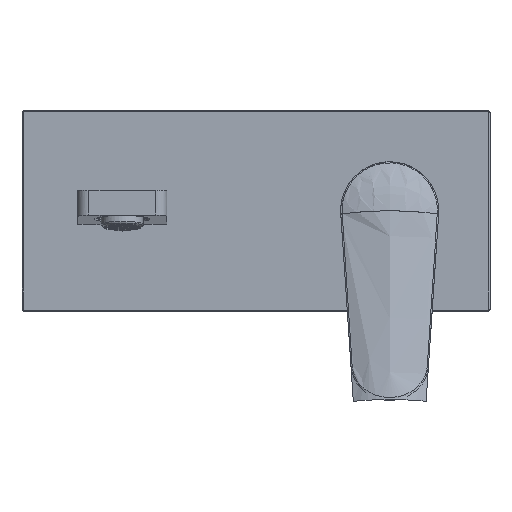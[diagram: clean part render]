
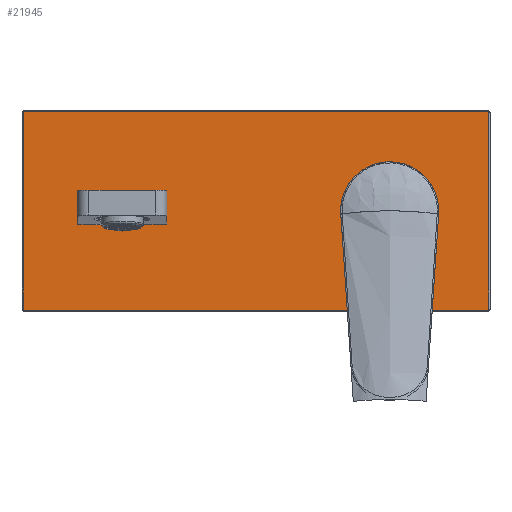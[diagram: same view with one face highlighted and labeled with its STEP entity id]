
A CAD part, top view. The second image highlights one B-rep face of the part: STEP entity #21945.
In plain terms, the highlighted planar face has unit normal (0, 0, 1).
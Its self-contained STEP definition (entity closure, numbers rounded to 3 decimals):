
#10870=CARTESIAN_POINT('',(104.,-44.,7.));
#10871=DIRECTION('',(0.,0.,1.));
#10872=DIRECTION('',(0.,-1.,0.));
#10873=AXIS2_PLACEMENT_3D('',#10870,#10871,#10872);
#10875=DIRECTION('',(1.,0.,0.));
#10876=VECTOR('',#10875,208.);
#10877=CARTESIAN_POINT('',(-104.,-44.5,7.));
#10878=LINE('',#10877,#10876);
#10879=CARTESIAN_POINT('',(-104.,-44.,7.));
#10880=DIRECTION('',(0.,0.,1.));
#10881=DIRECTION('',(-1.,0.,0.));
#10882=AXIS2_PLACEMENT_3D('',#10879,#10880,#10881);
#10884=DIRECTION('',(0.,-1.,0.));
#10885=VECTOR('',#10884,88.);
#10886=CARTESIAN_POINT('',(-104.5,44.,7.));
#10887=LINE('',#10886,#10885);
#10888=CARTESIAN_POINT('',(-104.,44.,7.));
#10889=DIRECTION('',(0.,0.,1.));
#10890=DIRECTION('',(0.,1.,0.));
#10891=AXIS2_PLACEMENT_3D('',#10888,#10889,#10890);
#10893=DIRECTION('',(-1.,0.,0.));
#10894=VECTOR('',#10893,208.);
#10895=CARTESIAN_POINT('',(104.,44.5,7.));
#10896=LINE('',#10895,#10894);
#10897=CARTESIAN_POINT('',(104.,44.,7.));
#10898=DIRECTION('',(0.,0.,1.));
#10899=DIRECTION('',(1.,0.,0.));
#10900=AXIS2_PLACEMENT_3D('',#10897,#10898,#10899);
#10902=DIRECTION('',(0.,1.,0.));
#10903=VECTOR('',#10902,88.);
#10904=CARTESIAN_POINT('',(104.5,-44.,7.));
#10905=LINE('',#10904,#10903);
#10906=CARTESIAN_POINT('',(60.,0.,7.));
#10907=DIRECTION('',(0.,0.,-1.));
#10908=DIRECTION('',(-1.,0.,0.));
#10909=AXIS2_PLACEMENT_3D('',#10906,#10907,#10908);
#10911=CARTESIAN_POINT('',(60.,0.,7.));
#10912=DIRECTION('',(0.,0.,-1.));
#10913=DIRECTION('',(1.,0.,0.));
#10914=AXIS2_PLACEMENT_3D('',#10911,#10912,#10913);
#10916=CARTESIAN_POINT('',(-60.,0.,7.));
#10917=DIRECTION('',(0.,0.,-1.));
#10918=DIRECTION('',(-1.,0.,0.));
#10919=AXIS2_PLACEMENT_3D('',#10916,#10917,#10918);
#10921=CARTESIAN_POINT('',(-60.,0.,7.));
#10922=DIRECTION('',(0.,0.,-1.));
#10923=DIRECTION('',(1.,0.,0.));
#10924=AXIS2_PLACEMENT_3D('',#10921,#10922,#10923);
#19225=CARTESIAN_POINT('',(104.,-44.5,7.));
#19226=CARTESIAN_POINT('',(104.5,-44.,7.));
#19227=VERTEX_POINT('',#19225);
#19228=VERTEX_POINT('',#19226);
#19233=CARTESIAN_POINT('',(104.5,44.,7.));
#19234=VERTEX_POINT('',#19233);
#19237=CARTESIAN_POINT('',(104.,44.5,7.));
#19238=VERTEX_POINT('',#19237);
#19241=CARTESIAN_POINT('',(-104.,44.5,7.));
#19242=VERTEX_POINT('',#19241);
#19245=CARTESIAN_POINT('',(-104.5,44.,7.));
#19246=VERTEX_POINT('',#19245);
#19249=CARTESIAN_POINT('',(-104.5,-44.,7.));
#19250=VERTEX_POINT('',#19249);
#19253=CARTESIAN_POINT('',(-104.,-44.5,7.));
#19254=VERTEX_POINT('',#19253);
#19301=CARTESIAN_POINT('',(39.05,0.,7.));
#19302=CARTESIAN_POINT('',(80.95,0.,7.));
#19303=VERTEX_POINT('',#19301);
#19304=VERTEX_POINT('',#19302);
#19309=CARTESIAN_POINT('',(-67.2,0.,7.));
#19310=CARTESIAN_POINT('',(-52.8,0.,7.));
#19311=VERTEX_POINT('',#19309);
#19312=VERTEX_POINT('',#19310);
#21911=CARTESIAN_POINT('',(0.,0.,7.));
#21912=DIRECTION('',(0.,0.,1.));
#21913=DIRECTION('',(1.,0.,0.));
#21914=AXIS2_PLACEMENT_3D('',#21911,#21912,#21913);
#21915=PLANE('',#21914);
#21917=ORIENTED_EDGE('',*,*,#21916,.F.);
#21918=ORIENTED_EDGE('',*,*,#21901,.F.);
#21920=ORIENTED_EDGE('',*,*,#21919,.F.);
#21922=ORIENTED_EDGE('',*,*,#21921,.F.);
#21924=ORIENTED_EDGE('',*,*,#21923,.F.);
#21926=ORIENTED_EDGE('',*,*,#21925,.F.);
#21928=ORIENTED_EDGE('',*,*,#21927,.F.);
#21930=ORIENTED_EDGE('',*,*,#21929,.F.);
#21931=EDGE_LOOP('',(#21917,#21918,#21920,#21922,#21924,#21926,#21928,#21930));
#21932=FACE_OUTER_BOUND('',#21931,.F.);
#21934=ORIENTED_EDGE('',*,*,#21933,.F.);
#21936=ORIENTED_EDGE('',*,*,#21935,.F.);
#21937=EDGE_LOOP('',(#21934,#21936));
#21938=FACE_BOUND('',#21937,.F.);
#21940=ORIENTED_EDGE('',*,*,#21939,.F.);
#21942=ORIENTED_EDGE('',*,*,#21941,.F.);
#21943=EDGE_LOOP('',(#21940,#21942));
#21944=FACE_BOUND('',#21943,.F.);
#21945=ADVANCED_FACE('',(#21932,#21938,#21944),#21915,.T.);
#10874=CIRCLE('',#10873,0.5);
#10883=CIRCLE('',#10882,0.5);
#10892=CIRCLE('',#10891,0.5);
#10901=CIRCLE('',#10900,0.5);
#10910=CIRCLE('',#10909,20.95);
#10915=CIRCLE('',#10914,20.95);
#10920=CIRCLE('',#10919,7.2);
#10925=CIRCLE('',#10924,7.2);
#21901=EDGE_CURVE('',#19254,#19227,#10878,.T.);
#21916=EDGE_CURVE('',#19227,#19228,#10874,.T.);
#21919=EDGE_CURVE('',#19250,#19254,#10883,.T.);
#21921=EDGE_CURVE('',#19246,#19250,#10887,.T.);
#21923=EDGE_CURVE('',#19242,#19246,#10892,.T.);
#21925=EDGE_CURVE('',#19238,#19242,#10896,.T.);
#21927=EDGE_CURVE('',#19234,#19238,#10901,.T.);
#21929=EDGE_CURVE('',#19228,#19234,#10905,.T.);
#21933=EDGE_CURVE('',#19303,#19304,#10910,.T.);
#21935=EDGE_CURVE('',#19304,#19303,#10915,.T.);
#21939=EDGE_CURVE('',#19311,#19312,#10920,.T.);
#21941=EDGE_CURVE('',#19312,#19311,#10925,.T.);
